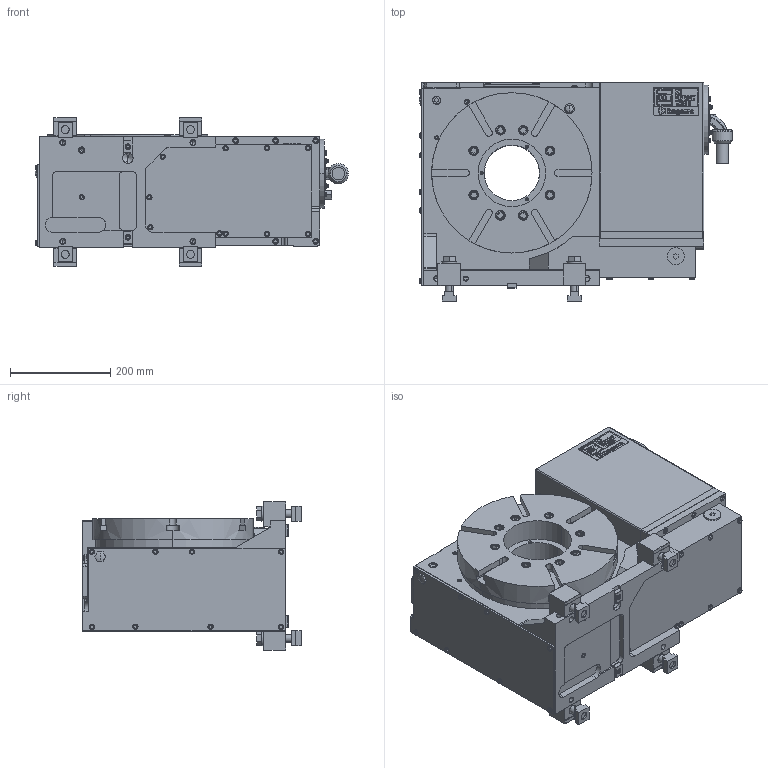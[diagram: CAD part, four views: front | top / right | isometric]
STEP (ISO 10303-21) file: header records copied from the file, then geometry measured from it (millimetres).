
FILE_DESCRIPTION (( 'STEP AP214' ), '1' );
FILE_NAME ('TRX320BV.STEP', '2019-12-02T06:47:55', ( '' ), ( '' ), 'SwSTEP 2.0', 'SolidWorks 2017', '' );
FILE_SCHEMA (( 'AUTOMOTIVE_DESIGN' ));
Length unit declared in the file: millimetre
Products named in the file (19): TRX320BV; Tスロットナット１８１６; B パーカ　M16×75; CLAMPING PARTS(61E4303000)TR320D; ワッシャ　１６; クランプ（61E4043064）; TRX320BV00儂儞僞僀; キタガワシール; 働乕僽儖N29ZSZ2562; SMC KQ2E06-02; コネクタプレート(61E4479762)TRX320B20; 僇僶乕丂俹(61E4458433)MR250RAM01; モータケース(61E2817990)TRX320BV00; フランジ(61E2444780)TRX320B20; ガイドブロック(61M4197783); TRX320B01僋儈僞僥(61E112165); オイルゲージ 207; テーブル(61E3674881)TRX320H00; 儂儞僞僀ASSY(61E112164)TRX320B01
Assembly tree (22 placements, depth 4):
  TRX320BV
    TRX320BV00儂儞僞僀
      TRX320B01僋儈僞僥(61E112165)
        儂儞僞僀ASSY(61E112164)TRX320B01
        テーブル(61E3674881)TRX320H00
        オイルゲージ 207
      ガイドブロック(61M4197783)  x2
      フランジ(61E2444780)TRX320B20
      モータケース(61E2817990)TRX320BV00
      僇僶乕丂俹(61E4458433)MR250RAM01
      コネクタプレート(61E4479762)TRX320B20
      SMC KQ2E06-02
      働乕僽儖N29ZSZ2562
      キタガワシール
    CLAMPING PARTS(61E4303000)TR320D  x4
      クランプ（61E4043064）
      ワッシャ　１６
      B パーカ　M16×75
      Tスロットナット１８１６
Bounding box: 624.7 x 436 x 297 mm (x, y, z)
Volume: 42023377.7 mm3; surface area: 1747921.1 mm2
Topology: 28 solids, 28 shells, 3695 faces, 9474 edges, 6174 vertices
Faces by surface type: plane 2593, cylinder 819, cone 194, torus 76, bspline 7, sphere 6
Entity records: 123343 total; most frequent: CARTESIAN_POINT 19003, ORIENTED_EDGE 17852, DIRECTION 17807, EDGE_CURVE 8926, LINE 6993, VECTOR 6993, VERTEX_POINT 5868, AXIS2_PLACEMENT_3D 5407
